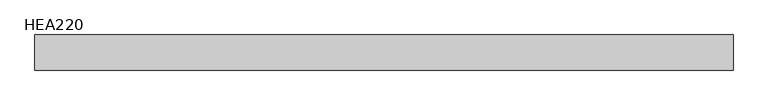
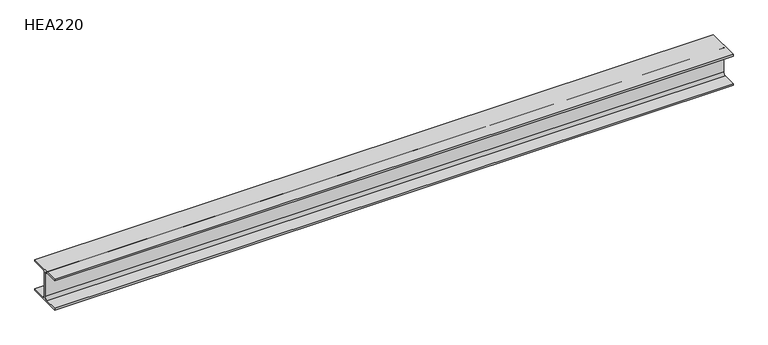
"""IFC4 building model written with IfcOpenShell, lengths in millimetres: beam geometry, HE-A : HEA220."""

from ifc_helpers import new_model, si_unit, point, frame, frame_2d, origin, place, context, project, spatial, polyline, circle_curve, trimmed, segment, composite_curve, outline, extrude, source, transform, mapped, element, save


def hea220_e51bf654(model_context):
    return source(origin(), model_context, "Body", "SweptSolid", [
        extrude(outline(composite_curve([segment(polyline([(110.0, -94.0), (110.0, -105.0), (-110.0, -105.0), (-110.0, -94.0), (-21.5, -94.0)]), True, "CONTINUOUS"), segment(trimmed(circle_curve(frame_2d((-21.5, -76.0)), 18.0), [point((-21.5, -94.0))], [point((-3.5, -76.0))], True, "CARTESIAN"), True, "CONTINUOUS"), segment(polyline([(-3.5, -76.0), (-3.5, 76.0)]), True, "CONTINUOUS"), segment(trimmed(circle_curve(frame_2d((-21.5, 76.0)), 18.0), [point((-3.5, 76.0))], [point((-21.5, 94.0))], True, "CARTESIAN"), True, "CONTINUOUS"), segment(polyline([(-21.5, 94.0), (-110.0, 94.0), (-110.0, 105.0), (110.0, 105.0), (110.0, 94.0), (21.5, 94.0)]), True, "CONTINUOUS"), segment(trimmed(circle_curve(frame_2d((21.5, 76.0)), 18.0), [point((21.5, 94.0))], [point((3.5, 76.0))], True, "CARTESIAN"), True, "CONTINUOUS"), segment(polyline([(3.5, 76.0), (3.5, -76.0)]), True, "CONTINUOUS"), segment(trimmed(circle_curve(frame_2d((21.5, -76.0)), 18.0), [point((3.5, -76.0))], [point((21.5, -94.0))], True, "CARTESIAN"), True, "CONTINUOUS"), segment(polyline([(21.5, -94.0), (110.0, -94.0)]), True, "CONTINUOUS")], self_intersect=False)), frame((-2185.2, 0.0, 0.0), z_axis=(1.0, 0.0, 0.0), x_axis=(0.0, 1.0, 0.0)), (0.0, 0.0, 1.0), 4370.4),
    ])


if __name__ == "__main__":
    model = new_model("IFC4")
    model_context = context("Model", 3, world=origin())
    ifc_project = project(units=[si_unit("LENGTHUNIT", "METRE", prefix="MILLI")], contexts=[model_context])
    site = spatial("IfcSite", under=ifc_project)
    building = spatial("IfcBuilding", under=site)
    placement = place(None, origin())
    hea220_shape = hea220_e51bf654(model_context)
    element("IfcBeam", 1, ObjectType="HE-A : HEA220", at=placement, inside=building, context=model_context, shape_type="MappedRepresentation", body=[
        mapped(hea220_shape, transform((0.0, 0.0, 0.0), x_axis=(1.0, 0.0, 0.0), y_axis=(0.0, 1.0, 0.0), z_axis=(0.0, 0.0, 1.0))),
    ])
    save(model, "model.ifc")
